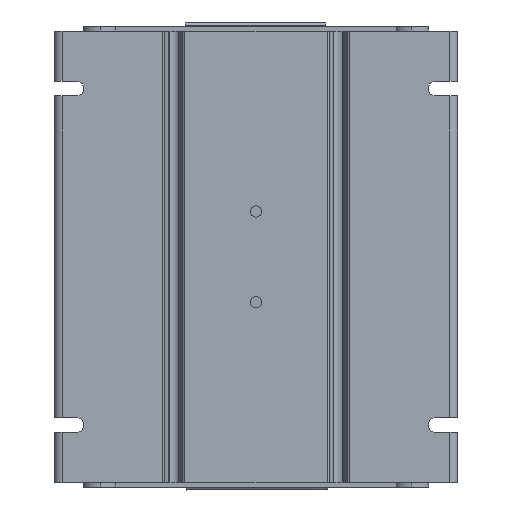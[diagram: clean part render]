
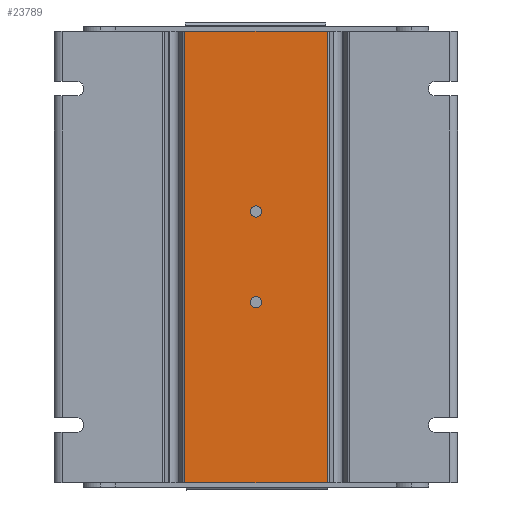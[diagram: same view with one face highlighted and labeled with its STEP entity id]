
A CAD part, front view. The second image highlights one B-rep face of the part: STEP entity #23789.
In plain terms, the highlighted planar face has unit normal (0, -1, 0).
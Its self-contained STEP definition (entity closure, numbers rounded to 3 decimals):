
#5299 = DIRECTION ( 'NONE',  ( 1., 0., 0. ) ) ;
#6862 = EDGE_CURVE ( 'NONE', #46603, #25049, #49921, .T. ) ;
#6960 = DIRECTION ( 'NONE',  ( 0., 0., -1. ) ) ;
#8530 = DIRECTION ( 'NONE',  ( 0., -1., 0. ) ) ;
#9195 = EDGE_CURVE ( 'NONE', #28944, #59331, #17136, .T. ) ;
#9807 = CARTESIAN_POINT ( 'NONE',  ( -16.816, -52.122, 100.6 ) ) ;
#10660 = LINE ( 'NONE', #9807, #48097 ) ;
#12258 = EDGE_LOOP ( 'NONE', ( #18040, #45039, #65574, #83400 ) ) ;
#13538 = DIRECTION ( 'NONE',  ( 0., 0., -1. ) ) ;
#16688 = FACE_BOUND ( 'NONE', #89999, .T. ) ;
#17136 = CIRCLE ( 'NONE', #47823, 1.25 ) ;
#17524 = DIRECTION ( 'NONE',  ( 0., -1., 0. ) ) ;
#18040 = ORIENTED_EDGE ( 'NONE', *, *, #6862, .T. ) ;
#20948 = CARTESIAN_POINT ( 'NONE',  ( 14.624, -52.122, 100.6 ) ) ;
#23789 = ADVANCED_FACE ( 'NONE', ( #16688, #89515, #35415 ), #33646, .F. ) ;
#25049 = VERTEX_POINT ( 'NONE', #48149 ) ;
#25797 = EDGE_CURVE ( 'NONE', #75431, #25049, #34741, .T. ) ;
#28824 = VECTOR ( 'NONE', #83059, 1000. ) ;
#28944 = VERTEX_POINT ( 'NONE', #76389 ) ;
#29355 = CARTESIAN_POINT ( 'NONE',  ( -16.816, -52.122, 100.6 ) ) ;
#31293 = CARTESIAN_POINT ( 'NONE',  ( -1.097, -52.122, 42.05 ) ) ;
#33646 = PLANE ( 'NONE',  #46782 ) ;
#33933 = DIRECTION ( 'NONE',  ( 0., 1., 0. ) ) ;
#34741 = LINE ( 'NONE', #20948, #88836 ) ;
#35415 = FACE_OUTER_BOUND ( 'NONE', #12258, .T. ) ;
#36521 = EDGE_LOOP ( 'NONE', ( #61796, #63114 ) ) ;
#36847 = DIRECTION ( 'NONE',  ( 0., -1., 0. ) ) ;
#44255 = ORIENTED_EDGE ( 'NONE', *, *, #9195, .F. ) ;
#45039 = ORIENTED_EDGE ( 'NONE', *, *, #25797, .F. ) ;
#45540 = EDGE_CURVE ( 'NONE', #59261, #66157, #88997, .T. ) ;
#46245 = VERTEX_POINT ( 'NONE', #29355 ) ;
#46603 = VERTEX_POINT ( 'NONE', #82274 ) ;
#46782 = AXIS2_PLACEMENT_3D ( 'NONE', #76213, #33933, #83233 ) ;
#46848 = CIRCLE ( 'NONE', #62684, 1.25 ) ;
#46964 = EDGE_CURVE ( 'NONE', #46245, #75431, #66357, .T. ) ;
#47269 = ORIENTED_EDGE ( 'NONE', *, *, #62058, .F. ) ;
#47823 = AXIS2_PLACEMENT_3D ( 'NONE', #50694, #8530, #57858 ) ;
#48097 = VECTOR ( 'NONE', #59091, 1000. ) ;
#48149 = CARTESIAN_POINT ( 'NONE',  ( 14.624, -52.122, 1. ) ) ;
#49155 = DIRECTION ( 'NONE',  ( 0., -1., 0. ) ) ;
#49921 = LINE ( 'NONE', #89811, #66505 ) ;
#50694 = CARTESIAN_POINT ( 'NONE',  ( -1.097, -52.122, 60.8 ) ) ;
#55410 = CARTESIAN_POINT ( 'NONE',  ( -1.097, -52.122, 39.55 ) ) ;
#57858 = DIRECTION ( 'NONE',  ( 0., 0., -1. ) ) ;
#59091 = DIRECTION ( 'NONE',  ( 0., 0., -1. ) ) ;
#59261 = VERTEX_POINT ( 'NONE', #55410 ) ;
#59331 = VERTEX_POINT ( 'NONE', #63429 ) ;
#59761 = CARTESIAN_POINT ( 'NONE',  ( -1.097, -52.122, 60.8 ) ) ;
#61796 = ORIENTED_EDGE ( 'NONE', *, *, #45540, .F. ) ;
#62058 = EDGE_CURVE ( 'NONE', #59331, #28944, #46848, .T. ) ;
#62096 = CARTESIAN_POINT ( 'NONE',  ( -16.816, -52.122, 100.6 ) ) ;
#62684 = AXIS2_PLACEMENT_3D ( 'NONE', #59761, #17524, #66865 ) ;
#63114 = ORIENTED_EDGE ( 'NONE', *, *, #76582, .F. ) ;
#63429 = CARTESIAN_POINT ( 'NONE',  ( -1.097, -52.122, 59.55 ) ) ;
#65574 = ORIENTED_EDGE ( 'NONE', *, *, #46964, .F. ) ;
#66157 = VERTEX_POINT ( 'NONE', #31293 ) ;
#66357 = LINE ( 'NONE', #62096, #28824 ) ;
#66505 = VECTOR ( 'NONE', #5299, 1000. ) ;
#66865 = DIRECTION ( 'NONE',  ( 0., 0., -1. ) ) ;
#75431 = VERTEX_POINT ( 'NONE', #91075 ) ;
#76213 = CARTESIAN_POINT ( 'NONE',  ( -16.816, -52.122, 100.6 ) ) ;
#76389 = CARTESIAN_POINT ( 'NONE',  ( -1.097, -52.122, 62.05 ) ) ;
#76582 = EDGE_CURVE ( 'NONE', #66157, #59261, #85385, .T. ) ;
#78272 = AXIS2_PLACEMENT_3D ( 'NONE', #91455, #49155, #6960 ) ;
#79083 = AXIS2_PLACEMENT_3D ( 'NONE', #79085, #36847, #86217 ) ;
#79085 = CARTESIAN_POINT ( 'NONE',  ( -1.097, -52.122, 40.8 ) ) ;
#82274 = CARTESIAN_POINT ( 'NONE',  ( -16.816, -52.122, 1. ) ) ;
#82966 = EDGE_CURVE ( 'NONE', #46245, #46603, #10660, .T. ) ;
#83059 = DIRECTION ( 'NONE',  ( 1., 0., 0. ) ) ;
#83233 = DIRECTION ( 'NONE',  ( 0., 0., 1. ) ) ;
#83400 = ORIENTED_EDGE ( 'NONE', *, *, #82966, .T. ) ;
#85385 = CIRCLE ( 'NONE', #79083, 1.25 ) ;
#86217 = DIRECTION ( 'NONE',  ( 0., 0., -1. ) ) ;
#88836 = VECTOR ( 'NONE', #13538, 1000. ) ;
#88997 = CIRCLE ( 'NONE', #78272, 1.25 ) ;
#89515 = FACE_BOUND ( 'NONE', #36521, .T. ) ;
#89811 = CARTESIAN_POINT ( 'NONE',  ( -16.816, -52.122, 1. ) ) ;
#89999 = EDGE_LOOP ( 'NONE', ( #47269, #44255 ) ) ;
#91075 = CARTESIAN_POINT ( 'NONE',  ( 14.624, -52.122, 100.6 ) ) ;
#91455 = CARTESIAN_POINT ( 'NONE',  ( -1.097, -52.122, 40.8 ) ) ;
